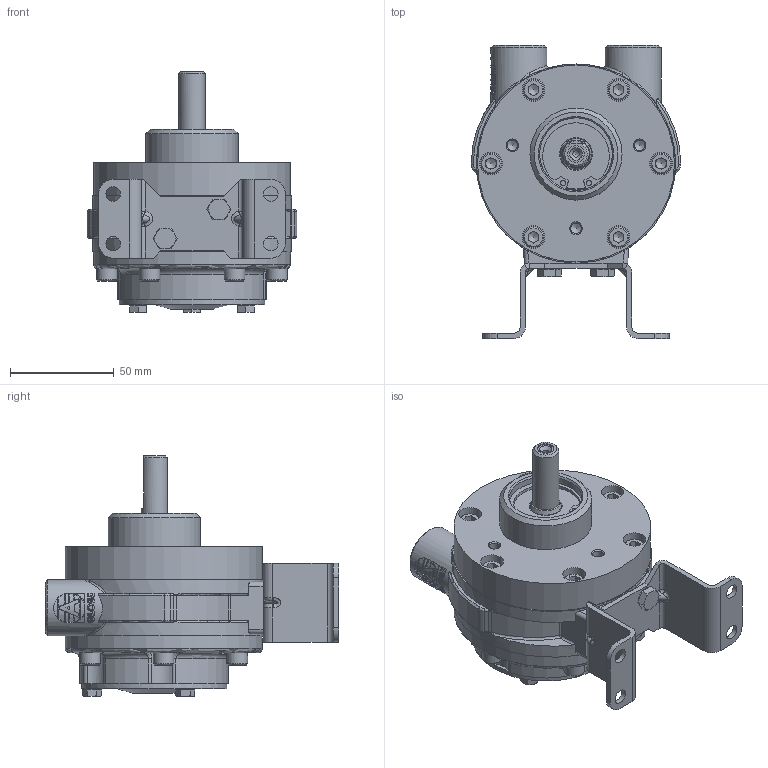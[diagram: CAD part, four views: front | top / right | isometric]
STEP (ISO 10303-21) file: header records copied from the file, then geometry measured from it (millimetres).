
FILE_DESCRIPTION (( 'STEP AP214' ), '1' );
FILE_NAME ('VA2J Defeature + Logo.STEP', '2023-05-23T09:56:26', ( '' ), ( '' ), 'SwSTEP 2.0', 'SolidWorks 2022', '' );
FILE_SCHEMA (( 'AUTOMOTIVE_DESIGN' ));
Length unit declared in the file: millimetre
Products named in the file (1): VA2J Defeature + Logo
Bounding box: 101 x 141.4 x 116.2 mm (x, y, z)
Volume: 486305.9 mm3; surface area: 60997.3 mm2
Topology: 1 solids, 1 shells, 742 faces, 1810 edges, 1102 vertices
Faces by surface type: plane 328, cylinder 160, bspline 136, cone 75, torus 31, sphere 12
Full cylindrical faces by diameter (mm): 2.5 x2, 3 x1, 5.105 x3, 7 x4, 8 x4, 10 x14, 11 x6, 12.7 x1, 14.95 x2, 15 x1, 15.3 x1, 17.1 x1, 27 x2, 34 x1, 35 x2, 37 x1, 44.4 x1, 70 x1, 95 x2
Entity records: 35148 total; most frequent: CARTESIAN_POINT 15774, ORIENTED_EDGE 3256, DIRECTION 2840, EDGE_CURVE 1628, AXIS2_PLACEMENT_3D 1106, VERTEX_POINT 1037, EDGE_LOOP 903, FACE_OUTER_BOUND 795
